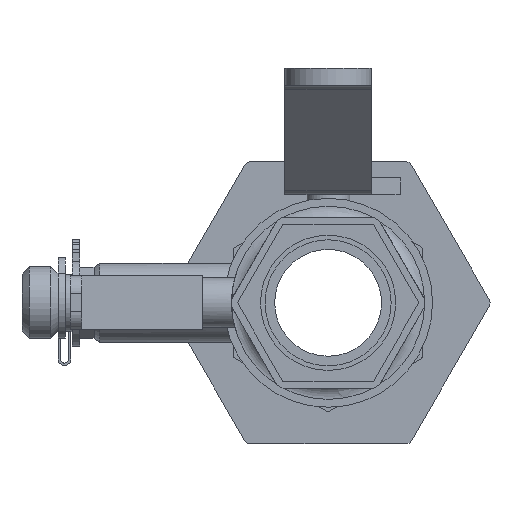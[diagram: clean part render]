
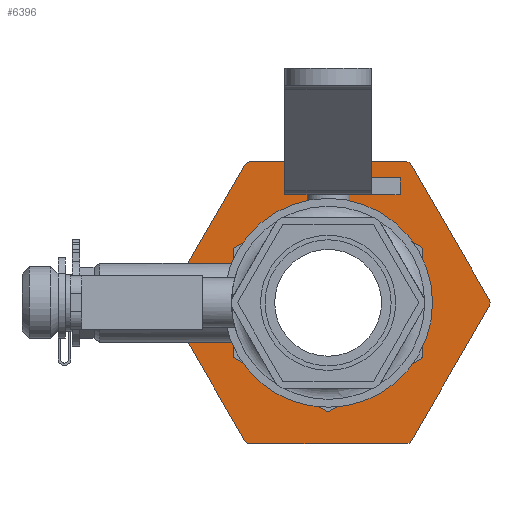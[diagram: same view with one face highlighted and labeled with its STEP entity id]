
A CAD part, left-side view. The second image highlights one B-rep face of the part: STEP entity #6396.
In plain terms, the highlighted planar face has unit normal (-1, 0, 0) as drawn and (1, 0, 0) by its records, which use the part's own axes.
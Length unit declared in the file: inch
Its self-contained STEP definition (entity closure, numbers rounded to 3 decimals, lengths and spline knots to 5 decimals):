
#98=FACE_BOUND('',#765,.T.);
#168=PLANE('',#6953);
#424=FACE_OUTER_BOUND('',#764,.T.);
#764=EDGE_LOOP('',(#4280,#4281,#4282,#4283,#4284,#4285,#4286,#4287,#4288,
#4289,#4290,#4291));
#765=EDGE_LOOP('',(#4292,#4293,#4294,#4295,#4296,#4297,#4298,#4299,#4300,
#4301,#4302,#4303));
#1124=LINE('',#9433,#1728);
#1129=LINE('',#9451,#1733);
#1136=LINE('',#9469,#1740);
#1141=LINE('',#9487,#1745);
#1147=LINE('',#9502,#1751);
#1148=LINE('',#9505,#1752);
#1173=LINE('',#9584,#1777);
#1176=LINE('',#9592,#1780);
#1179=LINE('',#9600,#1783);
#1182=LINE('',#9608,#1786);
#1185=LINE('',#9616,#1789);
#1188=LINE('',#9623,#1792);
#1728=VECTOR('',#7546,0.3937);
#1733=VECTOR('',#7565,0.3937);
#1740=VECTOR('',#7582,0.3937);
#1745=VECTOR('',#7601,0.3937);
#1751=VECTOR('',#7615,0.3937);
#1752=VECTOR('',#7618,0.3937);
#1777=VECTOR('',#7695,0.3937);
#1780=VECTOR('',#7704,0.3937);
#1783=VECTOR('',#7713,0.3937);
#1786=VECTOR('',#7722,0.3937);
#1789=VECTOR('',#7731,0.3937);
#1792=VECTOR('',#7740,0.3937);
#2325=CIRCLE('',#6881,0.025);
#2329=CIRCLE('',#6889,0.025);
#2333=CIRCLE('',#6896,0.025);
#2335=CIRCLE('',#6901,0.025);
#2339=CIRCLE('',#6908,0.025);
#2341=CIRCLE('',#6913,0.025);
#2355=CIRCLE('',#6936,0.05);
#2356=CIRCLE('',#6939,0.05);
#2357=CIRCLE('',#6942,0.05);
#2358=CIRCLE('',#6945,0.05);
#2359=CIRCLE('',#6948,0.05);
#2360=CIRCLE('',#6951,0.05);
#2609=VERTEX_POINT('',#9408);
#2610=VERTEX_POINT('',#9409);
#2619=VERTEX_POINT('',#9432);
#2621=VERTEX_POINT('',#9438);
#2625=VERTEX_POINT('',#9450);
#2627=VERTEX_POINT('',#9456);
#2631=VERTEX_POINT('',#9468);
#2633=VERTEX_POINT('',#9474);
#2637=VERTEX_POINT('',#9486);
#2639=VERTEX_POINT('',#9492);
#2642=VERTEX_POINT('',#9500);
#2643=VERTEX_POINT('',#9504);
#2669=VERTEX_POINT('',#9577);
#2670=VERTEX_POINT('',#9579);
#2671=VERTEX_POINT('',#9583);
#2672=VERTEX_POINT('',#9587);
#2673=VERTEX_POINT('',#9591);
#2674=VERTEX_POINT('',#9595);
#2675=VERTEX_POINT('',#9599);
#2676=VERTEX_POINT('',#9603);
#2677=VERTEX_POINT('',#9607);
#2678=VERTEX_POINT('',#9611);
#2679=VERTEX_POINT('',#9615);
#2680=VERTEX_POINT('',#9619);
#3209=EDGE_CURVE('',#2609,#2610,#2325,.T.);
#3220=EDGE_CURVE('',#2610,#2619,#1124,.T.);
#3223=EDGE_CURVE('',#2619,#2621,#2329,.T.);
#3229=EDGE_CURVE('',#2625,#2609,#1129,.T.);
#3232=EDGE_CURVE('',#2627,#2625,#2333,.T.);
#3238=EDGE_CURVE('',#2621,#2631,#1136,.T.);
#3241=EDGE_CURVE('',#2631,#2633,#2335,.T.);
#3247=EDGE_CURVE('',#2637,#2627,#1141,.T.);
#3250=EDGE_CURVE('',#2639,#2637,#2339,.T.);
#3255=EDGE_CURVE('',#2633,#2642,#1147,.T.);
#3256=EDGE_CURVE('',#2643,#2639,#1148,.T.);
#3259=EDGE_CURVE('',#2642,#2643,#2341,.T.);
#3294=EDGE_CURVE('',#2670,#2669,#2355,.T.);
#3296=EDGE_CURVE('',#2671,#2670,#1173,.T.);
#3298=EDGE_CURVE('',#2672,#2671,#2356,.T.);
#3300=EDGE_CURVE('',#2673,#2672,#1176,.T.);
#3302=EDGE_CURVE('',#2674,#2673,#2357,.T.);
#3304=EDGE_CURVE('',#2675,#2674,#1179,.T.);
#3306=EDGE_CURVE('',#2676,#2675,#2358,.T.);
#3308=EDGE_CURVE('',#2677,#2676,#1182,.T.);
#3310=EDGE_CURVE('',#2678,#2677,#2359,.T.);
#3312=EDGE_CURVE('',#2679,#2678,#1185,.T.);
#3314=EDGE_CURVE('',#2680,#2679,#2360,.T.);
#3316=EDGE_CURVE('',#2669,#2680,#1188,.T.);
#4280=ORIENTED_EDGE('',*,*,#3316,.T.);
#4281=ORIENTED_EDGE('',*,*,#3314,.T.);
#4282=ORIENTED_EDGE('',*,*,#3312,.T.);
#4283=ORIENTED_EDGE('',*,*,#3310,.T.);
#4284=ORIENTED_EDGE('',*,*,#3308,.T.);
#4285=ORIENTED_EDGE('',*,*,#3306,.T.);
#4286=ORIENTED_EDGE('',*,*,#3304,.T.);
#4287=ORIENTED_EDGE('',*,*,#3302,.T.);
#4288=ORIENTED_EDGE('',*,*,#3300,.T.);
#4289=ORIENTED_EDGE('',*,*,#3298,.T.);
#4290=ORIENTED_EDGE('',*,*,#3296,.T.);
#4291=ORIENTED_EDGE('',*,*,#3294,.T.);
#4292=ORIENTED_EDGE('',*,*,#3256,.T.);
#4293=ORIENTED_EDGE('',*,*,#3250,.T.);
#4294=ORIENTED_EDGE('',*,*,#3247,.T.);
#4295=ORIENTED_EDGE('',*,*,#3232,.T.);
#4296=ORIENTED_EDGE('',*,*,#3229,.T.);
#4297=ORIENTED_EDGE('',*,*,#3209,.T.);
#4298=ORIENTED_EDGE('',*,*,#3220,.T.);
#4299=ORIENTED_EDGE('',*,*,#3223,.T.);
#4300=ORIENTED_EDGE('',*,*,#3238,.T.);
#4301=ORIENTED_EDGE('',*,*,#3241,.T.);
#4302=ORIENTED_EDGE('',*,*,#3255,.T.);
#4303=ORIENTED_EDGE('',*,*,#3259,.T.);
#6396=ADVANCED_FACE('',(#424,#98),#168,.T.);
#6881=AXIS2_PLACEMENT_3D('',#9410,#7525,#7526);
#6889=AXIS2_PLACEMENT_3D('',#9439,#7551,#7552);
#6896=AXIS2_PLACEMENT_3D('',#9457,#7570,#7571);
#6901=AXIS2_PLACEMENT_3D('',#9475,#7587,#7588);
#6908=AXIS2_PLACEMENT_3D('',#9493,#7606,#7607);
#6913=AXIS2_PLACEMENT_3D('',#9510,#7623,#7624);
#6936=AXIS2_PLACEMENT_3D('',#9580,#7690,#7691);
#6939=AXIS2_PLACEMENT_3D('',#9588,#7699,#7700);
#6942=AXIS2_PLACEMENT_3D('',#9596,#7708,#7709);
#6945=AXIS2_PLACEMENT_3D('',#9604,#7717,#7718);
#6948=AXIS2_PLACEMENT_3D('',#9612,#7726,#7727);
#6951=AXIS2_PLACEMENT_3D('',#9620,#7735,#7736);
#6953=AXIS2_PLACEMENT_3D('',#9624,#7741,#7742);
#7525=DIRECTION('center_axis',(-1.,0.,0.));
#7526=DIRECTION('ref_axis',(0.,-0.5,0.866));
#7546=DIRECTION('',(0.,-0.866,-0.5));
#7551=DIRECTION('center_axis',(-1.,0.,0.));
#7552=DIRECTION('ref_axis',(0.,0.5,0.866));
#7565=DIRECTION('',(0.,0.,-1.));
#7570=DIRECTION('center_axis',(-1.,0.,0.));
#7571=DIRECTION('ref_axis',(0.,-1.,0.));
#7582=DIRECTION('',(0.,-0.866,0.5));
#7587=DIRECTION('center_axis',(-1.,0.,0.));
#7588=DIRECTION('ref_axis',(0.,1.,0.));
#7601=DIRECTION('',(0.,0.866,-0.5));
#7606=DIRECTION('center_axis',(-1.,0.,0.));
#7607=DIRECTION('ref_axis',(0.,-0.5,-0.866));
#7615=DIRECTION('',(0.,0.,1.));
#7618=DIRECTION('',(0.,0.866,0.5));
#7623=DIRECTION('center_axis',(-1.,0.,0.));
#7624=DIRECTION('ref_axis',(0.,0.5,-0.866));
#7690=DIRECTION('center_axis',(1.,0.,0.));
#7691=DIRECTION('ref_axis',(0.,0.,1.));
#7695=DIRECTION('',(0.,1.,0.));
#7699=DIRECTION('center_axis',(1.,0.,0.));
#7700=DIRECTION('ref_axis',(0.,0.866,0.5));
#7704=DIRECTION('',(0.,0.5,-0.866));
#7708=DIRECTION('center_axis',(1.,0.,0.));
#7709=DIRECTION('ref_axis',(0.,0.866,-0.5));
#7713=DIRECTION('',(0.,-0.5,-0.866));
#7717=DIRECTION('center_axis',(1.,0.,0.));
#7718=DIRECTION('ref_axis',(0.,0.,-1.));
#7722=DIRECTION('',(0.,-1.,0.));
#7726=DIRECTION('center_axis',(1.,0.,0.));
#7727=DIRECTION('ref_axis',(0.,-0.866,-0.5));
#7731=DIRECTION('',(0.,-0.5,0.866));
#7735=DIRECTION('center_axis',(1.,0.,0.));
#7736=DIRECTION('ref_axis',(0.,-0.866,0.5));
#7740=DIRECTION('',(0.,0.5,0.866));
#7741=DIRECTION('center_axis',(1.,0.,0.));
#7742=DIRECTION('ref_axis',(0.,0.,-1.));
#9408=CARTESIAN_POINT('',(0.315,0.6575,-0.36517));
#9409=CARTESIAN_POINT('',(0.315,0.645,-0.38682));
#9410=CARTESIAN_POINT('Origin',(0.315,0.6325,-0.36517));
#9432=CARTESIAN_POINT('',(0.315,0.0125,-0.752));
#9433=CARTESIAN_POINT('',(0.315,0.48688,-0.47812));
#9438=CARTESIAN_POINT('',(0.315,-0.0125,-0.752));
#9439=CARTESIAN_POINT('Origin',(0.315,0.,-0.73035));
#9450=CARTESIAN_POINT('',(0.315,0.6575,0.36517));
#9451=CARTESIAN_POINT('',(0.315,0.6575,0.18259));
#9456=CARTESIAN_POINT('',(0.315,0.645,0.38682));
#9457=CARTESIAN_POINT('Origin',(0.315,0.6325,0.36517));
#9468=CARTESIAN_POINT('',(0.315,-0.645,-0.38682));
#9469=CARTESIAN_POINT('',(0.315,-0.17063,-0.66071));
#9474=CARTESIAN_POINT('',(0.315,-0.6575,-0.36517));
#9475=CARTESIAN_POINT('Origin',(0.315,-0.6325,-0.36517));
#9486=CARTESIAN_POINT('',(0.315,0.0125,0.752));
#9487=CARTESIAN_POINT('',(0.315,0.17063,0.66071));
#9492=CARTESIAN_POINT('',(0.315,-0.0125,0.752));
#9493=CARTESIAN_POINT('Origin',(0.315,0.,0.73035));
#9500=CARTESIAN_POINT('',(0.315,-0.6575,0.36517));
#9502=CARTESIAN_POINT('',(0.315,-0.6575,-0.18259));
#9504=CARTESIAN_POINT('',(0.315,-0.645,0.38682));
#9505=CARTESIAN_POINT('',(0.315,-0.48687,0.47812));
#9510=CARTESIAN_POINT('Origin',(0.315,-0.6325,0.36517));
#9577=CARTESIAN_POINT('',(0.315,0.58024,-0.955));
#9579=CARTESIAN_POINT('',(0.315,0.53694,-0.98));
#9580=CARTESIAN_POINT('Origin',(0.315,0.53694,-0.93));
#9583=CARTESIAN_POINT('',(0.315,-0.53694,-0.98));
#9584=CARTESIAN_POINT('',(0.315,0.53694,-0.98));
#9587=CARTESIAN_POINT('',(0.315,-0.58024,-0.955));
#9588=CARTESIAN_POINT('Origin',(0.315,-0.53694,-0.93));
#9591=CARTESIAN_POINT('',(0.315,-1.11717,-0.025));
#9592=CARTESIAN_POINT('',(0.315,-0.58024,-0.955));
#9595=CARTESIAN_POINT('',(0.315,-1.11717,0.025));
#9596=CARTESIAN_POINT('Origin',(0.315,-1.07387,0.));
#9599=CARTESIAN_POINT('',(0.315,-0.58024,0.955));
#9600=CARTESIAN_POINT('',(0.315,-1.11717,0.025));
#9603=CARTESIAN_POINT('',(0.315,-0.53694,0.98));
#9604=CARTESIAN_POINT('Origin',(0.315,-0.53694,0.93));
#9607=CARTESIAN_POINT('',(0.315,0.53694,0.98));
#9608=CARTESIAN_POINT('',(0.315,-0.53694,0.98));
#9611=CARTESIAN_POINT('',(0.315,0.58024,0.955));
#9612=CARTESIAN_POINT('Origin',(0.315,0.53694,0.93));
#9615=CARTESIAN_POINT('',(0.315,1.11717,0.025));
#9616=CARTESIAN_POINT('',(0.315,0.58024,0.955));
#9619=CARTESIAN_POINT('',(0.315,1.11717,-0.025));
#9620=CARTESIAN_POINT('Origin',(0.315,1.07387,0.));
#9623=CARTESIAN_POINT('',(0.315,1.11717,-0.025));
#9624=CARTESIAN_POINT('Origin',(0.315,0.,0.));
